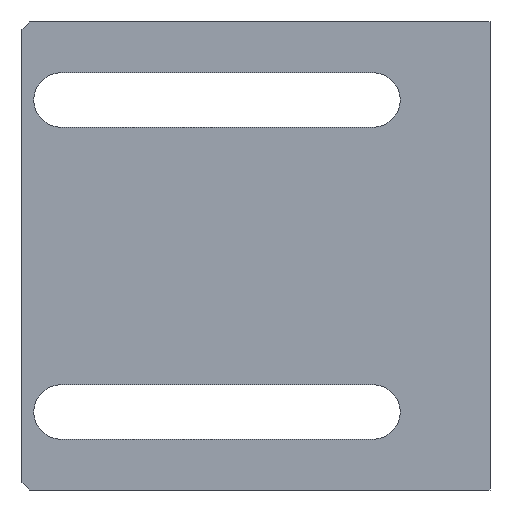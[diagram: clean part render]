
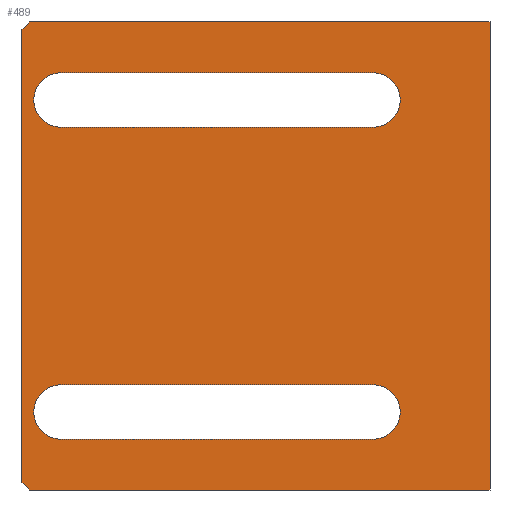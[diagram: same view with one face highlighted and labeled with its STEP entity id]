
A CAD part, front view. The second image highlights one B-rep face of the part: STEP entity #489.
In plain terms, the highlighted planar face has unit normal (0, -1, 0).
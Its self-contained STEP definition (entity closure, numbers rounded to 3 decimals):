
#11 = CARTESIAN_POINT ( 'NONE',  ( -15., 0., -20. ) ) ;
#14 = CARTESIAN_POINT ( 'NONE',  ( -60., 0., -30. ) ) ;
#36 = VERTEX_POINT ( 'NONE', #880 ) ;
#58 = ORIENTED_EDGE ( 'NONE', *, *, #1357, .T. ) ;
#72 = VERTEX_POINT ( 'NONE', #893 ) ;
#84 = DIRECTION ( 'NONE',  ( 0., 0., 1. ) ) ;
#90 = ORIENTED_EDGE ( 'NONE', *, *, #1223, .T. ) ;
#93 = LINE ( 'NONE', #1674, #1463 ) ;
#124 = CARTESIAN_POINT ( 'NONE',  ( -89.5, 0., -0.5 ) ) ;
#127 = VERTEX_POINT ( 'NONE', #205 ) ;
#136 = DIRECTION ( 'NONE',  ( 0., 0., -1. ) ) ;
#150 = DIRECTION ( 'NONE',  ( 0., 1., 0. ) ) ;
#163 = CARTESIAN_POINT ( 'NONE',  ( -55., 0., -16.5 ) ) ;
#173 = DIRECTION ( 'NONE',  ( 1., 0., 0. ) ) ;
#184 = VERTEX_POINT ( 'NONE', #789 ) ;
#185 = LINE ( 'NONE', #124, #842 ) ;
#205 = CARTESIAN_POINT ( 'NONE',  ( -60., 0., 29. ) ) ;
#209 = VERTEX_POINT ( 'NONE', #1725 ) ;
#210 = AXIS2_PLACEMENT_3D ( 'NONE', #411, #1494, #663 ) ;
#216 = EDGE_LOOP ( 'NONE', ( #1762, #342, #1511, #774 ) ) ;
#222 = VERTEX_POINT ( 'NONE', #1322 ) ;
#240 = ORIENTED_EDGE ( 'NONE', *, *, #1238, .T. ) ;
#265 = DIRECTION ( 'NONE',  ( -0.707, 0., -0.707 ) ) ;
#271 = ORIENTED_EDGE ( 'NONE', *, *, #1002, .F. ) ;
#288 = DIRECTION ( 'NONE',  ( 0., -1., 0. ) ) ;
#316 = CIRCLE ( 'NONE', #210, 3.5 ) ;
#337 = VECTOR ( 'NONE', #1237, 1000. ) ;
#338 = CIRCLE ( 'NONE', #461, 3.5 ) ;
#342 = ORIENTED_EDGE ( 'NONE', *, *, #1662, .T. ) ;
#351 = VERTEX_POINT ( 'NONE', #956 ) ;
#355 = DIRECTION ( 'NONE',  ( 0., 1., 0. ) ) ;
#357 = EDGE_CURVE ( 'NONE', #1117, #127, #185, .T. ) ;
#387 = VERTEX_POINT ( 'NONE', #405 ) ;
#405 = CARTESIAN_POINT ( 'NONE',  ( -60., 0., -29. ) ) ;
#411 = CARTESIAN_POINT ( 'NONE',  ( -55., 0., -20. ) ) ;
#419 = EDGE_LOOP ( 'NONE', ( #271, #1554, #1134, #240, #1060, #58 ) ) ;
#449 = LINE ( 'NONE', #531, #757 ) ;
#461 = AXIS2_PLACEMENT_3D ( 'NONE', #782, #355, #84 ) ;
#489 = ADVANCED_FACE ( 'NONE', ( #1507, #1451, #1492 ), #556, .T. ) ;
#523 = VERTEX_POINT ( 'NONE', #979 ) ;
#531 = CARTESIAN_POINT ( 'NONE',  ( -55., 0., 16.5 ) ) ;
#548 = AXIS2_PLACEMENT_3D ( 'NONE', #11, #1503, #962 ) ;
#556 = PLANE ( 'NONE',  #1705 ) ;
#559 = CARTESIAN_POINT ( 'NONE',  ( -55., 0., -23.5 ) ) ;
#580 = CARTESIAN_POINT ( 'NONE',  ( -59.5, 0., -29.5 ) ) ;
#616 = LINE ( 'NONE', #1666, #337 ) ;
#663 = DIRECTION ( 'NONE',  ( 0., 0., -1. ) ) ;
#673 = VERTEX_POINT ( 'NONE', #1122 ) ;
#699 = ORIENTED_EDGE ( 'NONE', *, *, #1668, .T. ) ;
#708 = VECTOR ( 'NONE', #1399, 1000. ) ;
#733 = DIRECTION ( 'NONE',  ( 0., 0., 1. ) ) ;
#739 = CARTESIAN_POINT ( 'NONE',  ( -55., 0., 23.5 ) ) ;
#741 = VERTEX_POINT ( 'NONE', #1246 ) ;
#745 = DIRECTION ( 'NONE',  ( 1., 0., 0. ) ) ;
#757 = VECTOR ( 'NONE', #1226, 1000. ) ;
#774 = ORIENTED_EDGE ( 'NONE', *, *, #1073, .T. ) ;
#782 = CARTESIAN_POINT ( 'NONE',  ( -15., 0., 20. ) ) ;
#789 = CARTESIAN_POINT ( 'NONE',  ( -15., 0., -16.5 ) ) ;
#797 = VECTOR ( 'NONE', #1517, 1000. ) ;
#800 = LINE ( 'NONE', #580, #1281 ) ;
#802 = LINE ( 'NONE', #163, #960 ) ;
#809 = CARTESIAN_POINT ( 'NONE',  ( -55., 0., 23.5 ) ) ;
#810 = VERTEX_POINT ( 'NONE', #739 ) ;
#821 = LINE ( 'NONE', #809, #1423 ) ;
#842 = VECTOR ( 'NONE', #265, 1000. ) ;
#864 = DIRECTION ( 'NONE',  ( 1., 0., 0. ) ) ;
#880 = CARTESIAN_POINT ( 'NONE',  ( -59., 0., -30. ) ) ;
#886 = CIRCLE ( 'NONE', #1641, 3.5 ) ;
#893 = CARTESIAN_POINT ( 'NONE',  ( -15., 0., 16.5 ) ) ;
#956 = CARTESIAN_POINT ( 'NONE',  ( -55., 0., 16.5 ) ) ;
#960 = VECTOR ( 'NONE', #864, 1000. ) ;
#962 = DIRECTION ( 'NONE',  ( 0., 0., -1. ) ) ;
#979 = CARTESIAN_POINT ( 'NONE',  ( -15., 0., 23.5 ) ) ;
#999 = EDGE_LOOP ( 'NONE', ( #699, #90, #1589, #1335 ) ) ;
#1002 = EDGE_CURVE ( 'NONE', #1117, #1598, #616, .T. ) ;
#1034 = EDGE_CURVE ( 'NONE', #184, #209, #1635, .T. ) ;
#1050 = CARTESIAN_POINT ( 'NONE',  ( 0., 0., 30. ) ) ;
#1060 = ORIENTED_EDGE ( 'NONE', *, *, #1124, .T. ) ;
#1073 = EDGE_CURVE ( 'NONE', #209, #741, #1145, .T. ) ;
#1116 = CARTESIAN_POINT ( 'NONE',  ( -55., 0., 20. ) ) ;
#1117 = VERTEX_POINT ( 'NONE', #1533 ) ;
#1122 = CARTESIAN_POINT ( 'NONE',  ( 0., 0., -30. ) ) ;
#1124 = EDGE_CURVE ( 'NONE', #36, #673, #93, .T. ) ;
#1130 = LINE ( 'NONE', #1524, #708 ) ;
#1134 = ORIENTED_EDGE ( 'NONE', *, *, #1694, .F. ) ;
#1145 = LINE ( 'NONE', #559, #797 ) ;
#1207 = EDGE_CURVE ( 'NONE', #741, #222, #316, .T. ) ;
#1214 = VECTOR ( 'NONE', #1266, 1000. ) ;
#1215 = EDGE_CURVE ( 'NONE', #72, #351, #449, .T. ) ;
#1223 = EDGE_CURVE ( 'NONE', #810, #523, #821, .T. ) ;
#1226 = DIRECTION ( 'NONE',  ( -1., 0., 0. ) ) ;
#1235 = CARTESIAN_POINT ( 'NONE',  ( -60., 0., -30. ) ) ;
#1237 = DIRECTION ( 'NONE',  ( 1., 0., 0. ) ) ;
#1238 = EDGE_CURVE ( 'NONE', #387, #36, #800, .T. ) ;
#1246 = CARTESIAN_POINT ( 'NONE',  ( -55., 0., -23.5 ) ) ;
#1266 = DIRECTION ( 'NONE',  ( 0., 0., 1. ) ) ;
#1281 = VECTOR ( 'NONE', #1510, 1000. ) ;
#1322 = CARTESIAN_POINT ( 'NONE',  ( -55., 0., -16.5 ) ) ;
#1335 = ORIENTED_EDGE ( 'NONE', *, *, #1215, .T. ) ;
#1357 = EDGE_CURVE ( 'NONE', #673, #1598, #1130, .T. ) ;
#1399 = DIRECTION ( 'NONE',  ( 0., 0., 1. ) ) ;
#1423 = VECTOR ( 'NONE', #173, 1000. ) ;
#1451 = FACE_BOUND ( 'NONE', #999, .T. ) ;
#1463 = VECTOR ( 'NONE', #745, 1000. ) ;
#1492 = FACE_OUTER_BOUND ( 'NONE', #419, .T. ) ;
#1494 = DIRECTION ( 'NONE',  ( 0., 1., 0. ) ) ;
#1503 = DIRECTION ( 'NONE',  ( 0., 1., 0. ) ) ;
#1507 = FACE_BOUND ( 'NONE', #216, .T. ) ;
#1510 = DIRECTION ( 'NONE',  ( 0.707, 0., -0.707 ) ) ;
#1511 = ORIENTED_EDGE ( 'NONE', *, *, #1034, .T. ) ;
#1517 = DIRECTION ( 'NONE',  ( -1., 0., 0. ) ) ;
#1524 = CARTESIAN_POINT ( 'NONE',  ( 0., 0., -30. ) ) ;
#1533 = CARTESIAN_POINT ( 'NONE',  ( -59., 0., 30. ) ) ;
#1535 = EDGE_CURVE ( 'NONE', #523, #72, #338, .T. ) ;
#1554 = ORIENTED_EDGE ( 'NONE', *, *, #357, .T. ) ;
#1570 = LINE ( 'NONE', #14, #1214 ) ;
#1589 = ORIENTED_EDGE ( 'NONE', *, *, #1535, .T. ) ;
#1598 = VERTEX_POINT ( 'NONE', #1050 ) ;
#1635 = CIRCLE ( 'NONE', #548, 3.5 ) ;
#1641 = AXIS2_PLACEMENT_3D ( 'NONE', #1116, #150, #733 ) ;
#1662 = EDGE_CURVE ( 'NONE', #222, #184, #802, .T. ) ;
#1666 = CARTESIAN_POINT ( 'NONE',  ( -60., 0., 30. ) ) ;
#1668 = EDGE_CURVE ( 'NONE', #351, #810, #886, .T. ) ;
#1674 = CARTESIAN_POINT ( 'NONE',  ( -60., 0., -30. ) ) ;
#1694 = EDGE_CURVE ( 'NONE', #387, #127, #1570, .T. ) ;
#1705 = AXIS2_PLACEMENT_3D ( 'NONE', #1235, #288, #136 ) ;
#1725 = CARTESIAN_POINT ( 'NONE',  ( -15., 0., -23.5 ) ) ;
#1762 = ORIENTED_EDGE ( 'NONE', *, *, #1207, .T. ) ;
